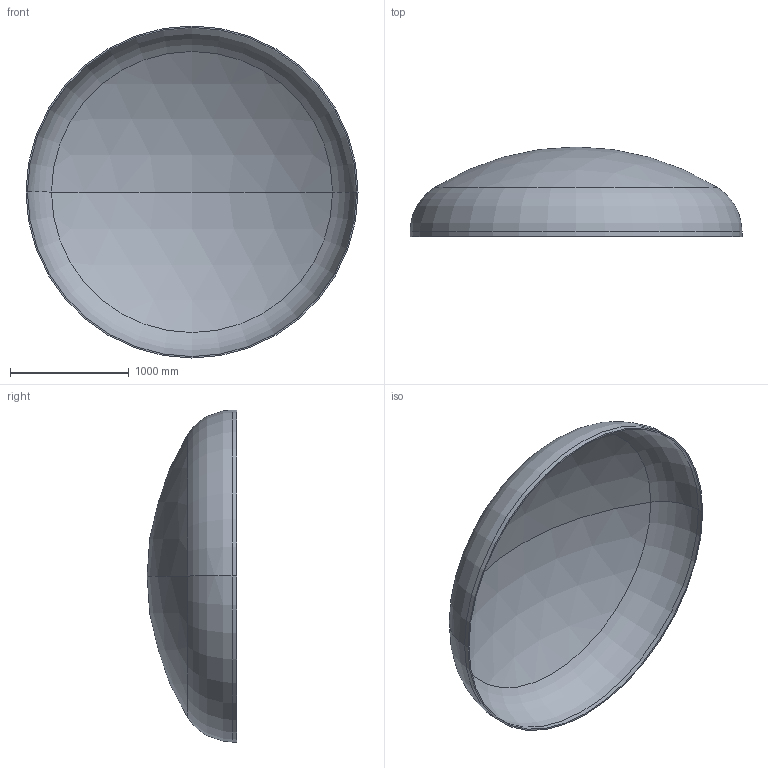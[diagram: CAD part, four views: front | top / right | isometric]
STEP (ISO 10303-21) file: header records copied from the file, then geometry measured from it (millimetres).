
FILE_DESCRIPTION (( 'STEP AP203' ), '1' );
FILE_NAME ('DIN 28013 Korbbogenform_-_Boden DIN 28013 - 2800 x 40 - I - s=12.step', '2016-07-01T16:42:19', ( '' ), ( '' ), 'SwSTEP 2.0', 'SolidWorks 2013', '' );
FILE_SCHEMA (( 'CONFIG_CONTROL_DESIGN' ));
Length unit declared in the file: millimetre
Products named in the file (1): DIN 28013 Korbbogenform_-_Boden DIN 28013 - 2800 x 40 - I - s=12
Bounding box: 2800 x 756.31 x 2800 mm (x, y, z)
Volume: 105912576.3 mm3; surface area: 17757495.7 mm2
Topology: 1 solids, 1 shells, 13 faces, 24 edges, 14 vertices
Faces by surface type: torus 4, cylinder 4, sphere 4, plane 1
Entity records: 407 total; most frequent: DIRECTION 72, CARTESIAN_POINT 52, ORIENTED_EDGE 48, AXIS2_PLACEMENT_3D 34, EDGE_CURVE 24, CIRCLE 20, EDGE_LOOP 14, VERTEX_POINT 14
